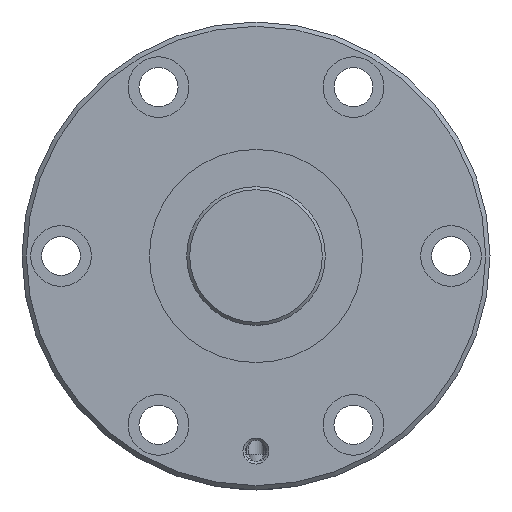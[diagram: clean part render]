
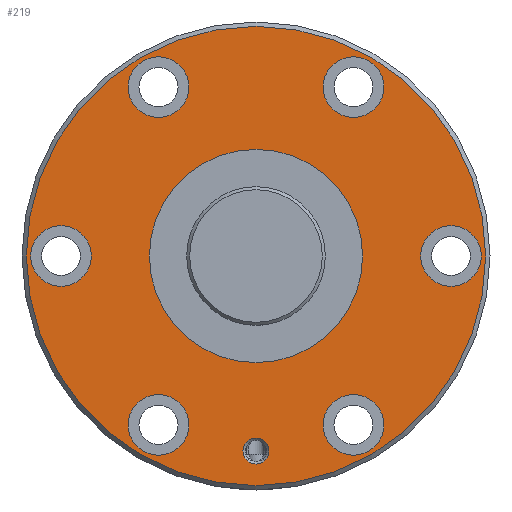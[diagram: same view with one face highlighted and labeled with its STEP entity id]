
A CAD part, left-side view. The second image highlights one B-rep face of the part: STEP entity #219.
In plain terms, the highlighted planar face has unit normal (-1, 0, 0).
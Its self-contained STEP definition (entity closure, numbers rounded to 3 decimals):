
#219 = ADVANCED_FACE( '', ( #390, #391, #392, #393, #394, #395, #396, #397, #398 ), #399, .T. );
#390 = FACE_BOUND( '', #629, .T. );
#391 = FACE_BOUND( '', #630, .T. );
#392 = FACE_BOUND( '', #631, .T. );
#393 = FACE_BOUND( '', #632, .T. );
#394 = FACE_BOUND( '', #633, .T. );
#395 = FACE_BOUND( '', #634, .T. );
#396 = FACE_BOUND( '', #635, .T. );
#397 = FACE_BOUND( '', #636, .T. );
#398 = FACE_OUTER_BOUND( '', #637, .T. );
#399 = PLANE( '', #638 );
#629 = EDGE_LOOP( '', ( #1059 ) );
#630 = EDGE_LOOP( '', ( #1060 ) );
#631 = EDGE_LOOP( '', ( #1061 ) );
#632 = EDGE_LOOP( '', ( #1062 ) );
#633 = EDGE_LOOP( '', ( #1063 ) );
#634 = EDGE_LOOP( '', ( #1064 ) );
#635 = EDGE_LOOP( '', ( #1065 ) );
#636 = EDGE_LOOP( '', ( #1066 ) );
#637 = EDGE_LOOP( '', ( #1067 ) );
#638 = AXIS2_PLACEMENT_3D( '', #1068, #1069, #1070 );
#1059 = ORIENTED_EDGE( '', *, *, #1342, .T. );
#1060 = ORIENTED_EDGE( '', *, *, #1343, .T. );
#1061 = ORIENTED_EDGE( '', *, *, #1265, .T. );
#1062 = ORIENTED_EDGE( '', *, *, #1341, .T. );
#1063 = ORIENTED_EDGE( '', *, *, #1344, .T. );
#1064 = ORIENTED_EDGE( '', *, *, #1345, .T. );
#1065 = ORIENTED_EDGE( '', *, *, #1346, .T. );
#1066 = ORIENTED_EDGE( '', *, *, #1347, .T. );
#1067 = ORIENTED_EDGE( '', *, *, #1348, .F. );
#1068 = CARTESIAN_POINT( '', ( 0., 53., 0. ) );
#1069 = DIRECTION( '', ( -1., 0., 0. ) );
#1070 = DIRECTION( '', ( 0., 0., 1. ) );
#1265 = EDGE_CURVE( '', #1419, #1419, #1420, .T. );
#1341 = EDGE_CURVE( '', #1549, #1549, #1550, .T. );
#1342 = EDGE_CURVE( '', #1551, #1551, #1552, .T. );
#1343 = EDGE_CURVE( '', #1553, #1553, #1554, .F. );
#1344 = EDGE_CURVE( '', #1555, #1555, #1556, .T. );
#1345 = EDGE_CURVE( '', #1557, #1557, #1558, .T. );
#1346 = EDGE_CURVE( '', #1559, #1559, #1560, .T. );
#1347 = EDGE_CURVE( '', #1561, #1561, #1562, .T. );
#1348 = EDGE_CURVE( '', #1563, #1563, #1564, .T. );
#1419 = VERTEX_POINT( '', #1772 );
#1420 = CIRCLE( '', #1773, 3. );
#1549 = VERTEX_POINT( '', #2186 );
#1550 = CIRCLE( '', #2187, 7. );
#1551 = VERTEX_POINT( '', #2188 );
#1552 = CIRCLE( '', #2189, 24.6 );
#1553 = VERTEX_POINT( '', #2190 );
#1554 = CIRCLE( '', #2191, 7. );
#1555 = VERTEX_POINT( '', #2192 );
#1556 = CIRCLE( '', #2193, 7. );
#1557 = VERTEX_POINT( '', #2194 );
#1558 = CIRCLE( '', #2195, 7. );
#1559 = VERTEX_POINT( '', #2196 );
#1560 = CIRCLE( '', #2197, 7. );
#1561 = VERTEX_POINT( '', #2198 );
#1562 = CIRCLE( '', #2199, 7. );
#1563 = VERTEX_POINT( '', #2200 );
#1564 = CIRCLE( '', #2201, 53. );
#1772 = CARTESIAN_POINT( '', ( 0., 0., -48. ) );
#1773 = AXIS2_PLACEMENT_3D( '', #2357, #2358, #2359 );
#2186 = CARTESIAN_POINT( '', ( 0., 22.5, 31.971 ) );
#2187 = AXIS2_PLACEMENT_3D( '', #2509, #2510, #2511 );
#2188 = CARTESIAN_POINT( '', ( 0., 0., -24.6 ) );
#2189 = AXIS2_PLACEMENT_3D( '', #2512, #2513, #2514 );
#2190 = CARTESIAN_POINT( '', ( 0., 45., 7. ) );
#2191 = AXIS2_PLACEMENT_3D( '', #2515, #2516, #2517 );
#2192 = CARTESIAN_POINT( '', ( 0., -22.5, -45.971 ) );
#2193 = AXIS2_PLACEMENT_3D( '', #2518, #2519, #2520 );
#2194 = CARTESIAN_POINT( '', ( 0., -22.5, 31.971 ) );
#2195 = AXIS2_PLACEMENT_3D( '', #2521, #2522, #2523 );
#2196 = CARTESIAN_POINT( '', ( 0., 22.5, -45.971 ) );
#2197 = AXIS2_PLACEMENT_3D( '', #2524, #2525, #2526 );
#2198 = CARTESIAN_POINT( '', ( 0., -45., -7. ) );
#2199 = AXIS2_PLACEMENT_3D( '', #2527, #2528, #2529 );
#2200 = CARTESIAN_POINT( '', ( 0., 0., -53. ) );
#2201 = AXIS2_PLACEMENT_3D( '', #2530, #2531, #2532 );
#2357 = CARTESIAN_POINT( '', ( 0., 0., -45. ) );
#2358 = DIRECTION( '', ( 1., 0., 0. ) );
#2359 = DIRECTION( '', ( 0., 0., -1. ) );
#2509 = CARTESIAN_POINT( '', ( 0., 22.5, 38.971 ) );
#2510 = DIRECTION( '', ( 1., 0., 0. ) );
#2511 = DIRECTION( '', ( 0., 0., -1. ) );
#2512 = CARTESIAN_POINT( '', ( 0., 0., 0. ) );
#2513 = DIRECTION( '', ( 1., 0., 0. ) );
#2514 = DIRECTION( '', ( 0., 0., -1. ) );
#2515 = CARTESIAN_POINT( '', ( 0., 45., 0. ) );
#2516 = DIRECTION( '', ( -1., 0., 0. ) );
#2517 = DIRECTION( '', ( 0., 0., 1. ) );
#2518 = CARTESIAN_POINT( '', ( 0., -22.5, -38.971 ) );
#2519 = DIRECTION( '', ( 1., 0., 0. ) );
#2520 = DIRECTION( '', ( 0., 0., -1. ) );
#2521 = CARTESIAN_POINT( '', ( 0., -22.5, 38.971 ) );
#2522 = DIRECTION( '', ( 1., 0., 0. ) );
#2523 = DIRECTION( '', ( 0., 0., -1. ) );
#2524 = CARTESIAN_POINT( '', ( 0., 22.5, -38.971 ) );
#2525 = DIRECTION( '', ( 1., 0., 0. ) );
#2526 = DIRECTION( '', ( 0., 0., -1. ) );
#2527 = CARTESIAN_POINT( '', ( 0., -45., 0. ) );
#2528 = DIRECTION( '', ( 1., 0., 0. ) );
#2529 = DIRECTION( '', ( 0., 0., -1. ) );
#2530 = CARTESIAN_POINT( '', ( 0., 0., 0. ) );
#2531 = DIRECTION( '', ( 1., 0., 0. ) );
#2532 = DIRECTION( '', ( 0., 0., -1. ) );
